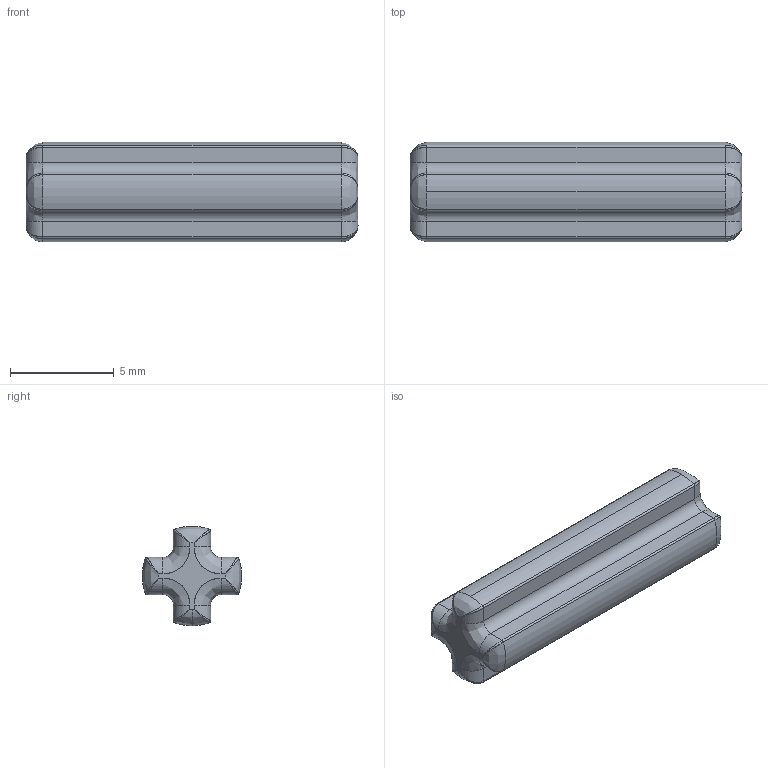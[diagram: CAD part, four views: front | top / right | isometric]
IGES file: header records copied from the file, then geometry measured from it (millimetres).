
Start section: SolidWorks IGES file using analytic representation for surfaces
Global section: file name: C:\Users\PC\Desktop\Lego Technik Gear and Axles\Axles\STEP, IGES, STL\3704 Black Technic Axle 2.IGS; native system: SolidWorks 2014; preprocessor: SolidWorks 2014; author: PC; date: 150218.223226; units: millimetre
Bounding box: 16 x 4.79 x 4.8 mm (x, y, z)
Surface area: 287.1 mm2 (no closed solid volume)
Topology: 0 solids, 0 shells, 77 faces, 490 edges, 474 vertices
Faces by surface type: bspline 44, revolution 33
